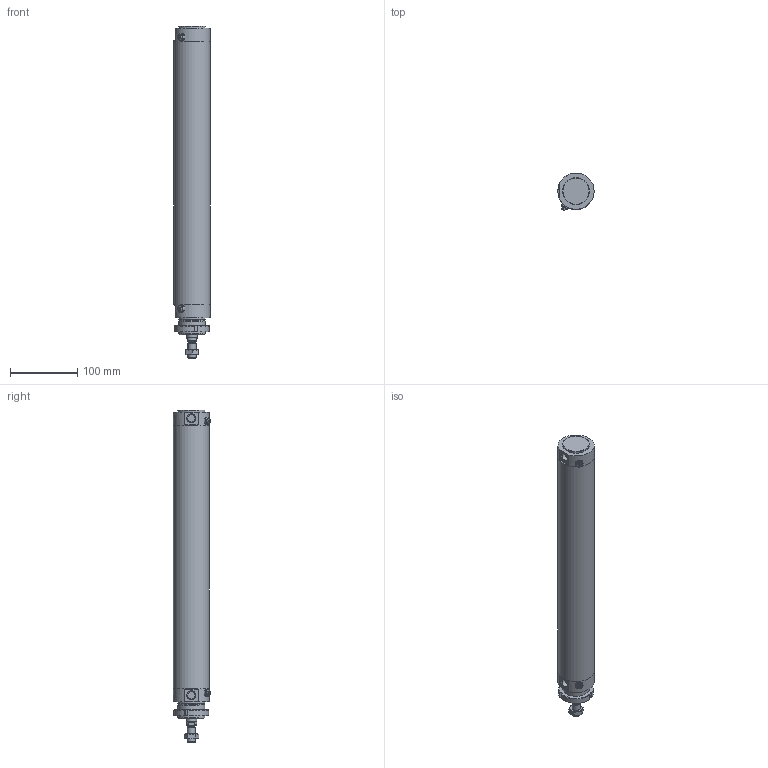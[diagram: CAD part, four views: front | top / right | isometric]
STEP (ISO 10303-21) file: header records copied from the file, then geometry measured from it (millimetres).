
FILE_DESCRIPTION(/* description */ (''),/* implementation_level */ '2;1');
FILE_NAME(/* name */ 'I:\Area Tecnica\Documenti\A-Manieri\_Inventor\12X\12X#D_###_####_#_#\12XBD_050_0350_#_#.stp',/* time_stamp */ '2015-05-04T15:13:09+02:00',/* author */ ('maniean1'),/* organization */ ('Pneumax S.p.A.'),/* preprocessor_version */ 'ST-DEVELOPER v15.2',/* originating_system */ 'Autodesk Inventor 2014',/* authorisation */ '');
FILE_SCHEMA (('AUTOMOTIVE_DESIGN { 1 0 10303 214 3 1 1 }'));
Length unit declared in the file: millimetre
Products named in the file (7): C1250_619-0350; 12X50_606; S12X50_0350; 12X_50_11; 12X50_612; G12X_050_05; 12XBD_050_0350_#_#
Bounding box: 54 x 55.88 x 495 mm (x, y, z)
Volume: 420905.8 mm3; surface area: 187795.6 mm2
Topology: 6 solids, 6 shells, 99 faces, 217 edges, 140 vertices
Faces by surface type: plane 53, cylinder 25, cone 19, torus 2
Full cylindrical faces by diameter (mm): 5 x2, 10.2 x1, 11 x2, 11.4 x2, 12 x2, 14 x1, 15.6 x1, 16 x1, 38.2 x1, 40 x4, 50 x2, 54 x3
Entity records: 2667 total; most frequent: CARTESIAN_POINT 540, DIRECTION 444, ORIENTED_EDGE 348, AXIS2_PLACEMENT_3D 188, EDGE_CURVE 174, EDGE_LOOP 152, VERTEX_POINT 132, ADVANCED_FACE 99
